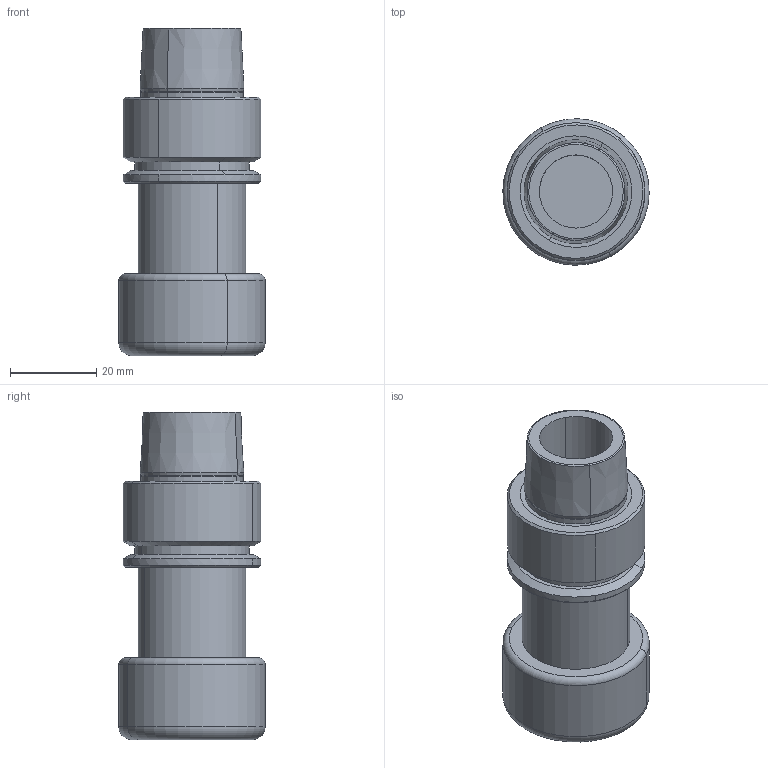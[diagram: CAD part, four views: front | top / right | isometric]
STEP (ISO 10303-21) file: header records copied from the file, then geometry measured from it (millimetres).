
FILE_DESCRIPTION(('CATIA V5 STEP','CAx-IF Rec.Pracs.--- Model Styling and Organization---1.2---2011-12-15'),'2;1');
FILE_NAME('\\nas01\drv1\utils\eitdev\rte\eit\transmagicconvert\db\out\635931996684003194\4505783-D-B.stp','2016-03-10T07:41:20+00:00',('none'),('none'),'CATIA Version 5 Release 21 SP 5 (IN-10)','CATIA V5 STEP AP214','none');
FILE_SCHEMA(('AUTOMOTIVE_DESIGN { 1 0 10303 214 1 1 1 1 }'));
Length unit declared in the file: millimetre
Products named in the file (1): HSK E 32 ER20X 60 
Bounding box: 33.99 x 33.99 x 76 mm (x, y, z)
Volume: 34542.1 mm3; surface area: 12842.2 mm2
Topology: 1 solids, 1 shells, 55 faces, 114 edges, 68 vertices
Faces by surface type: cylinder 20, cone 18, plane 9, torus 8
Entity records: 1312 total; most frequent: ORIENTED_EDGE 228, CARTESIAN_POINT 217, DIRECTION 182, EDGE_CURVE 114, AXIS2_PLACEMENT_3D 111, CIRCLE 76, VERTEX_POINT 68, EDGE_LOOP 62
